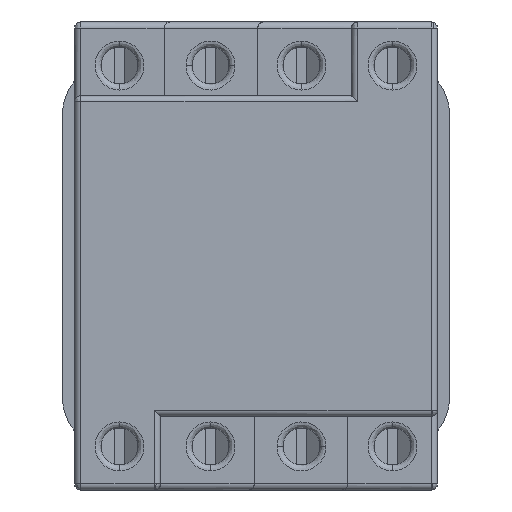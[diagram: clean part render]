
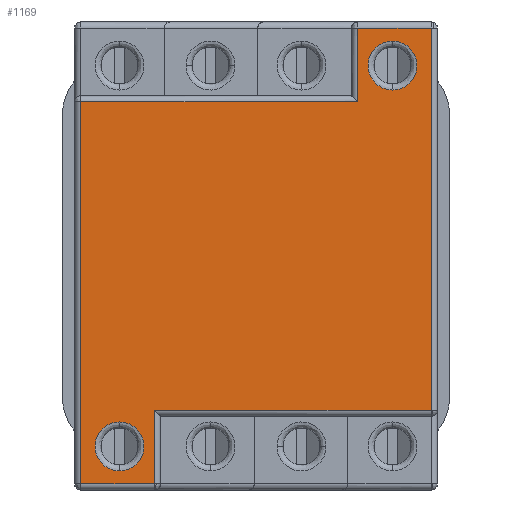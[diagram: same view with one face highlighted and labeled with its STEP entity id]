
A CAD part, front view. The second image highlights one B-rep face of the part: STEP entity #1169.
In plain terms, the highlighted planar face has unit normal (0, -1, 0).
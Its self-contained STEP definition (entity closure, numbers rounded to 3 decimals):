
#130 = CARTESIAN_POINT ( 'NONE',  ( -22.575, 0., -27.45 ) ) ;
#733 = EDGE_CURVE ( 'NONE', #5061, #12260, #16538, .T. ) ;
#846 = CARTESIAN_POINT ( 'NONE',  ( 29., 0., -25.5 ) ) ;
#863 = VERTEX_POINT ( 'NONE', #10987 ) ;
#1038 = EDGE_CURVE ( 'NONE', #4525, #863, #16291, .T. ) ;
#1169 = ADVANCED_FACE ( 'NONE', ( #3518, #3963, #18342 ), #11792, .F. ) ;
#1195 = CARTESIAN_POINT ( 'NONE',  ( 30.675, 0., 35.55 ) ) ;
#1299 = CARTESIAN_POINT ( 'NONE',  ( 14.475, 0., 27.45 ) ) ;
#1411 = VERTEX_POINT ( 'NONE', #6493 ) ;
#1490 = VECTOR ( 'NONE', #9975, 1000. ) ;
#1562 = EDGE_CURVE ( 'NONE', #1411, #5061, #10438, .T. ) ;
#2002 =( BOUNDED_CURVE ( )  B_SPLINE_CURVE ( 3, ( #130, #8700, #11591, #3014 ),
 .UNSPECIFIED., .F., .F. ) 
 B_SPLINE_CURVE_WITH_KNOTS ( ( 4, 4 ),
 ( 0., 1. ),
 .UNSPECIFIED. ) 
 CURVE ( )  GEOMETRIC_REPRESENTATION_ITEM ( )  RATIONAL_B_SPLINE_CURVE ( ( 1., 0.333, 0.333, 1. ) ) 
 REPRESENTATION_ITEM ( '' )  );
#2376 = VECTOR ( 'NONE', #9004, 1000. ) ;
#2460 =( BOUNDED_CURVE ( )  B_SPLINE_CURVE ( 3, ( #12772, #2733, #1299, #4195 ),
 .UNSPECIFIED., .F., .F. ) 
 B_SPLINE_CURVE_WITH_KNOTS ( ( 4, 4 ),
 ( 0., 1. ),
 .UNSPECIFIED. ) 
 CURVE ( )  GEOMETRIC_REPRESENTATION_ITEM ( )  RATIONAL_B_SPLINE_CURVE ( ( 1., 0.333, 0.333, 1. ) ) 
 REPRESENTATION_ITEM ( '' )  );
#2733 = CARTESIAN_POINT ( 'NONE',  ( 14.475, 0., 35.55 ) ) ;
#2822 = VECTOR ( 'NONE', #4360, 1000. ) ;
#3008 = ORIENTED_EDGE ( 'NONE', *, *, #18317, .F. ) ;
#3014 = CARTESIAN_POINT ( 'NONE',  ( -22.575, 0., -35.55 ) ) ;
#3224 = CARTESIAN_POINT ( 'NONE',  ( 29., 0., 37.7 ) ) ;
#3421 =( BOUNDED_CURVE ( )  B_SPLINE_CURVE ( 3, ( #8327, #16958, #1195, #11229 ),
 .UNSPECIFIED., .F., .F. ) 
 B_SPLINE_CURVE_WITH_KNOTS ( ( 4, 4 ),
 ( 0., 1. ),
 .UNSPECIFIED. ) 
 CURVE ( )  GEOMETRIC_REPRESENTATION_ITEM ( )  RATIONAL_B_SPLINE_CURVE ( ( 1., 0.333, 0.333, 1. ) ) 
 REPRESENTATION_ITEM ( '' )  );
#3518 = FACE_OUTER_BOUND ( 'NONE', #3635, .T. ) ;
#3619 = VERTEX_POINT ( 'NONE', #13164 ) ;
#3635 = EDGE_LOOP ( 'NONE', ( #3696, #16086, #8897, #9553, #4023, #8182, #16653, #7774 ) ) ;
#3673 = DIRECTION ( 'NONE',  ( 1., 0., 0. ) ) ;
#3696 = ORIENTED_EDGE ( 'NONE', *, *, #18642, .F. ) ;
#3963 = FACE_BOUND ( 'NONE', #8923, .T. ) ;
#4023 = ORIENTED_EDGE ( 'NONE', *, *, #1562, .F. ) ;
#4195 = CARTESIAN_POINT ( 'NONE',  ( 22.575, 0., 27.45 ) ) ;
#4360 = DIRECTION ( 'NONE',  ( 0., 0., 1. ) ) ;
#4518 = CARTESIAN_POINT ( 'NONE',  ( -22.575, 0., -35.55 ) ) ;
#4525 = VERTEX_POINT ( 'NONE', #846 ) ;
#4656 = DIRECTION ( 'NONE',  ( 0., 0., 1. ) ) ;
#4885 = ORIENTED_EDGE ( 'NONE', *, *, #13450, .F. ) ;
#4918 = CARTESIAN_POINT ( 'NONE',  ( 16.8, 0., 37.7 ) ) ;
#5036 = VERTEX_POINT ( 'NONE', #16191 ) ;
#5061 = VERTEX_POINT ( 'NONE', #4918 ) ;
#5504 = EDGE_CURVE ( 'NONE', #12260, #4525, #13827, .T. ) ;
#5786 = CARTESIAN_POINT ( 'NONE',  ( 16.8, 0., 38.7 ) ) ;
#5791 = EDGE_CURVE ( 'NONE', #12024, #10108, #2460, .T. ) ;
#5805 = ORIENTED_EDGE ( 'NONE', *, *, #10836, .F. ) ;
#6004 = CARTESIAN_POINT ( 'NONE',  ( 30., 0., 38.7 ) ) ;
#6493 = CARTESIAN_POINT ( 'NONE',  ( 16.8, 0., 25.5 ) ) ;
#6511 = CARTESIAN_POINT ( 'NONE',  ( 30., 0., 37.7 ) ) ;
#7000 = LINE ( 'NONE', #15559, #18057 ) ;
#7231 = LINE ( 'NONE', #7779, #13981 ) ;
#7665 = EDGE_CURVE ( 'NONE', #12125, #1411, #9744, .T. ) ;
#7774 = ORIENTED_EDGE ( 'NONE', *, *, #9303, .F. ) ;
#7779 = CARTESIAN_POINT ( 'NONE',  ( -29., 0., 38.7 ) ) ;
#7933 = LINE ( 'NONE', #16570, #15133 ) ;
#8182 = ORIENTED_EDGE ( 'NONE', *, *, #7665, .F. ) ;
#8327 = CARTESIAN_POINT ( 'NONE',  ( 22.575, 0., 27.45 ) ) ;
#8650 = CARTESIAN_POINT ( 'NONE',  ( 30., 0., -25.5 ) ) ;
#8700 = CARTESIAN_POINT ( 'NONE',  ( -30.675, 0., -27.45 ) ) ;
#8818 = CARTESIAN_POINT ( 'NONE',  ( -22.575, 0., -27.45 ) ) ;
#8841 = VECTOR ( 'NONE', #16455, 1000. ) ;
#8897 = ORIENTED_EDGE ( 'NONE', *, *, #5504, .F. ) ;
#8923 = EDGE_LOOP ( 'NONE', ( #13018, #3008 ) ) ;
#8988 = EDGE_CURVE ( 'NONE', #13153, #12125, #7231, .T. ) ;
#9004 = DIRECTION ( 'NONE',  ( 0., 0., -1. ) ) ;
#9303 = EDGE_CURVE ( 'NONE', #9933, #13153, #7000, .T. ) ;
#9553 = ORIENTED_EDGE ( 'NONE', *, *, #733, .F. ) ;
#9744 = LINE ( 'NONE', #15011, #8841 ) ;
#9933 = VERTEX_POINT ( 'NONE', #15452 ) ;
#9975 = DIRECTION ( 'NONE',  ( -1., 0., 0. ) ) ;
#10108 = VERTEX_POINT ( 'NONE', #17339 ) ;
#10389 = CARTESIAN_POINT ( 'NONE',  ( 29., 0., 38.7 ) ) ;
#10438 = LINE ( 'NONE', #5786, #2822 ) ;
#10607 = DIRECTION ( 'NONE',  ( 0., 0., 1. ) ) ;
#10836 = EDGE_CURVE ( 'NONE', #5036, #3619, #2002, .T. ) ;
#10987 = CARTESIAN_POINT ( 'NONE',  ( -16.8, 0., -25.5 ) ) ;
#11229 = CARTESIAN_POINT ( 'NONE',  ( 22.575, 0., 35.55 ) ) ;
#11591 = CARTESIAN_POINT ( 'NONE',  ( -30.675, 0., -35.55 ) ) ;
#11761 =( BOUNDED_CURVE ( )  B_SPLINE_CURVE ( 3, ( #4518, #13083, #17458, #8818 ),
 .UNSPECIFIED., .F., .F. ) 
 B_SPLINE_CURVE_WITH_KNOTS ( ( 4, 4 ),
 ( 0., 1. ),
 .UNSPECIFIED. ) 
 CURVE ( )  GEOMETRIC_REPRESENTATION_ITEM ( )  RATIONAL_B_SPLINE_CURVE ( ( 1., 0.333, 0.333, 1. ) ) 
 REPRESENTATION_ITEM ( '' )  );
#11792 = PLANE ( 'NONE',  #17531 ) ;
#12024 = VERTEX_POINT ( 'NONE', #16658 ) ;
#12125 = VERTEX_POINT ( 'NONE', #16788 ) ;
#12260 = VERTEX_POINT ( 'NONE', #3224 ) ;
#12306 = CARTESIAN_POINT ( 'NONE',  ( -29., 0., -37.7 ) ) ;
#12772 = CARTESIAN_POINT ( 'NONE',  ( 22.575, 0., 35.55 ) ) ;
#13018 = ORIENTED_EDGE ( 'NONE', *, *, #5791, .F. ) ;
#13083 = CARTESIAN_POINT ( 'NONE',  ( -14.475, 0., -35.55 ) ) ;
#13153 = VERTEX_POINT ( 'NONE', #12306 ) ;
#13164 = CARTESIAN_POINT ( 'NONE',  ( -22.575, 0., -35.55 ) ) ;
#13231 = DIRECTION ( 'NONE',  ( 0., 1., 0. ) ) ;
#13450 = EDGE_CURVE ( 'NONE', #3619, #5036, #11761, .T. ) ;
#13827 = LINE ( 'NONE', #10389, #2376 ) ;
#13981 = VECTOR ( 'NONE', #10607, 1000. ) ;
#14128 = DIRECTION ( 'NONE',  ( -1., 0., 0. ) ) ;
#15011 = CARTESIAN_POINT ( 'NONE',  ( 30., 0., 25.5 ) ) ;
#15133 = VECTOR ( 'NONE', #15180, 1000. ) ;
#15180 = DIRECTION ( 'NONE',  ( 0., 0., -1. ) ) ;
#15452 = CARTESIAN_POINT ( 'NONE',  ( -16.8, 0., -37.7 ) ) ;
#15559 = CARTESIAN_POINT ( 'NONE',  ( 30., 0., -37.7 ) ) ;
#15636 = VECTOR ( 'NONE', #3673, 1000. ) ;
#16086 = ORIENTED_EDGE ( 'NONE', *, *, #1038, .F. ) ;
#16191 = CARTESIAN_POINT ( 'NONE',  ( -22.575, 0., -27.45 ) ) ;
#16291 = LINE ( 'NONE', #8650, #1490 ) ;
#16455 = DIRECTION ( 'NONE',  ( 1., 0., 0. ) ) ;
#16518 = EDGE_LOOP ( 'NONE', ( #5805, #4885 ) ) ;
#16538 = LINE ( 'NONE', #6511, #15636 ) ;
#16570 = CARTESIAN_POINT ( 'NONE',  ( -16.8, 0., 38.7 ) ) ;
#16653 = ORIENTED_EDGE ( 'NONE', *, *, #8988, .F. ) ;
#16658 = CARTESIAN_POINT ( 'NONE',  ( 22.575, 0., 35.55 ) ) ;
#16788 = CARTESIAN_POINT ( 'NONE',  ( -29., 0., 25.5 ) ) ;
#16958 = CARTESIAN_POINT ( 'NONE',  ( 30.675, 0., 27.45 ) ) ;
#17339 = CARTESIAN_POINT ( 'NONE',  ( 22.575, 0., 27.45 ) ) ;
#17458 = CARTESIAN_POINT ( 'NONE',  ( -14.475, 0., -27.45 ) ) ;
#17531 = AXIS2_PLACEMENT_3D ( 'NONE', #6004, #13231, #4656 ) ;
#18057 = VECTOR ( 'NONE', #14128, 1000. ) ;
#18317 = EDGE_CURVE ( 'NONE', #10108, #12024, #3421, .T. ) ;
#18342 = FACE_BOUND ( 'NONE', #16518, .T. ) ;
#18642 = EDGE_CURVE ( 'NONE', #863, #9933, #7933, .T. ) ;
